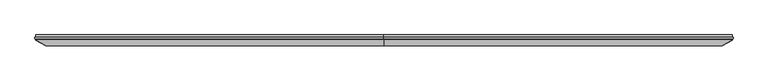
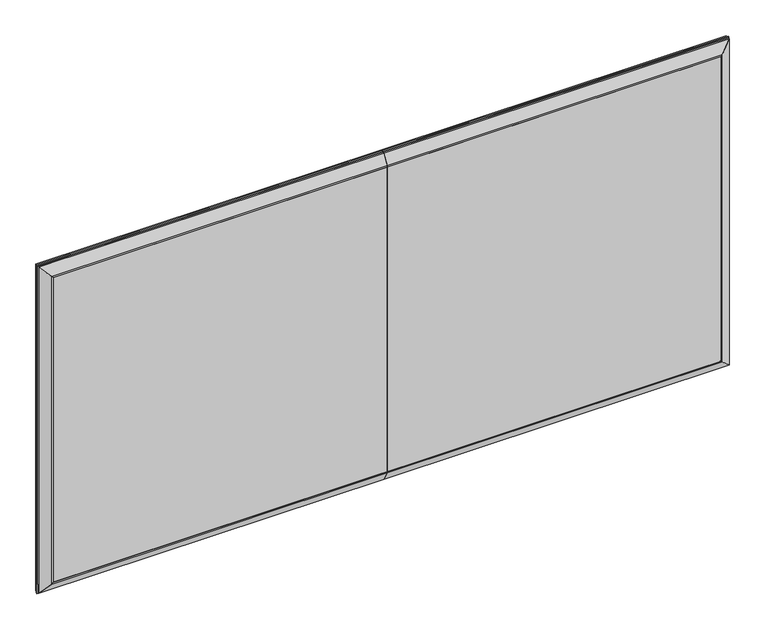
"""IFC4 building model written with IfcOpenShell, lengths in millimetres: proxy geometry, IMPRESS^TABLE 3_2pc 60x120-TOP PARTS SOLID."""

from ifc_helpers import new_model, si_unit, frame, origin, place, context, project, spatial, polyline, outline, extrude, faceted_brep, source, transform, mapped, element, save


def generic_models_7fb8ee6f(model_context):
    return source(origin(), model_context, "Body", "SolidModel", [
        extrude(outline(polyline([(3006.725, 0.0), (3051.175, 0.0), (3051.175, -6.35), (3006.725, -6.35), (3006.725, 0.0)])), frame((0.0, 0.0, -1508.125), z_axis=(0.0, 0.0, 1.0), x_axis=(1.0, 0.0, 0.0)), (0.0, 0.0, 1.0), 1492.25),
        extrude(outline(polyline([(1524.0, 0.0), (1524.0, 9.525), (3048.0, 9.525), (3048.0, 0.0), (1524.0, 0.0)])), frame((0.0, 0.0, -1524.0), z_axis=(0.0, 0.0, 1.0), x_axis=(1.0, 0.0, 0.0)), (0.0, 0.0, 1.0), 1524.0),
        extrude(outline(polyline([(3051.175, 0.0), (3051.175, -6.35), (1524.0, -6.35), (1524.0, 0.0), (3051.175, 0.0)])), frame((0.0, 0.0, -41.275), z_axis=(0.0, 0.0, 1.0), x_axis=(1.0, 0.0, 0.0)), (0.0, 0.0, 1.0), 44.45),
        extrude(outline(polyline([(2997.2, -38.1), (1524.0, -38.1), (1524.0, 0.0), (2997.2, 0.0), (2997.2, -38.1)])), frame((0.0, 0.0, -1473.2), z_axis=(0.0, 0.0, 1.0), x_axis=(1.0, 0.0, 0.0)), (0.0, 0.0, 1.0), 1422.4),
        faceted_brep([(43.9940905, -38.1, -1480.0059095), (1524.0, -38.1, -1480.0059095), (1524.0, -38.1, -1473.2), (50.8, -38.1, -1473.2), (0.0, -12.7, -1524.0), (1524.0, -12.7, -1524.0), (0.0, 0.0, -1524.0), (1524.0, 0.0, -1524.0), (50.8, 0.0, -1473.2), (1524.0, 0.0, -1473.2)], [[[0, 1, 2, 3]], [[4, 5, 1, 0]], [[6, 7, 5, 4]], [[7, 6, 8, 9]], [[3, 2, 9, 8]], [[7, 9, 2, 1, 5]], [[6, 4, 0, 3, 8]]]),
        extrude(outline(polyline([(1524.0, -6.35), (1524.0, 0.0), (3051.175, 0.0), (3051.175, -6.35), (1524.0, -6.35)])), frame((0.0, 0.0, -1527.175), z_axis=(0.0, 0.0, 1.0), x_axis=(1.0, 0.0, 0.0)), (0.0, 0.0, 1.0), 44.45),
        extrude(outline(polyline([(1524.0, 0.0), (1524.0, -6.35), (-3.175, -6.35), (-3.175, 0.0), (1524.0, 0.0)])), frame((0.0, 0.0, -1527.175), z_axis=(0.0, 0.0, 1.0), x_axis=(1.0, 0.0, 0.0)), (0.0, 0.0, 1.0), 44.45),
        faceted_brep([(3004.0059095, -38.1, -1480.0059095), (3004.0059095, -38.1, -43.9940905), (2997.2, -38.1, -50.8), (2997.2, -38.1, -1473.2), (3048.0, 0.0, -1524.0), (3048.0, 0.0, 0.0), (3048.0, -12.7, 0.0), (3048.0, -12.7, -1524.0), (2997.2, 0.0, -50.8), (2997.2, 0.0, -1473.2)], [[[0, 1, 2, 3]], [[4, 5, 6, 7]], [[6, 5, 8, 2, 1]], [[5, 4, 9, 8]], [[3, 2, 8, 9]], [[7, 6, 1, 0]], [[4, 7, 0, 3, 9]]]),
        faceted_brep([(43.9940905, -38.1, -43.9940905), (43.9940905, -38.1, -1480.0059095), (50.8, -38.1, -1473.2), (50.8, -38.1, -50.8), (0.0, 0.0, 0.0), (0.0, 0.0, -1524.0), (0.0, -12.7, -1524.0), (0.0, -12.7, 0.0), (50.8, 0.0, -1473.2), (50.8, 0.0, -50.8)], [[[0, 1, 2, 3]], [[4, 5, 6, 7]], [[6, 5, 8, 2, 1]], [[5, 4, 9, 8]], [[3, 2, 8, 9]], [[7, 6, 1, 0]], [[4, 7, 0, 3, 9]]]),
        extrude(outline(polyline([(-3.175, 0.0), (41.275, 0.0), (41.275, -6.35), (-3.175, -6.35), (-3.175, 0.0)])), frame((0.0, 0.0, -1508.125), z_axis=(0.0, 0.0, 1.0), x_axis=(1.0, 0.0, 0.0)), (0.0, 0.0, 1.0), 1492.25),
        extrude(outline(polyline([(1524.0, 0.0), (1524.0, -6.35), (-3.175, -6.35), (-3.175, 0.0), (1524.0, 0.0)])), frame((0.0, 0.0, -41.275), z_axis=(0.0, 0.0, 1.0), x_axis=(1.0, 0.0, 0.0)), (0.0, 0.0, 1.0), 44.45),
        faceted_brep([(1524.0, -38.1, -1480.0059095), (3004.0059095, -38.1, -1480.0059095), (2997.2, -38.1, -1473.2), (1524.0, -38.1, -1473.2), (3048.0, 0.0, -1524.0), (1524.0, 0.0, -1524.0), (1524.0, 0.0, -1473.2), (2997.2, 0.0, -1473.2), (3048.0, -12.7, -1524.0), (1524.0, -12.7, -1524.0)], [[[0, 1, 2, 3]], [[4, 5, 6, 7]], [[5, 4, 8, 9]], [[8, 4, 7, 2, 1]], [[3, 2, 7, 6]], [[9, 8, 1, 0]], [[5, 9, 0, 3, 6]]]),
        faceted_brep([(1524.0, -38.1, -50.8), (50.8, -38.1, -50.8), (50.8, 0.0, -50.8), (1524.0, 0.0, -50.8), (1524.0, -38.1, -43.9940905), (43.9940905, -38.1, -43.9940905), (0.0, 0.0, 0.0), (1524.0, 0.0, 0.0), (0.0, -12.7, 0.0), (1524.0, -12.7, 0.0)], [[[0, 1, 2, 3]], [[1, 0, 4, 5]], [[6, 7, 3, 2]], [[7, 6, 8, 9]], [[8, 6, 2, 1, 5]], [[0, 3, 7, 9, 4]], [[9, 8, 5, 4]]]),
        extrude(outline(polyline([(1524.0, -38.1), (50.8, -38.1), (50.8, 0.0), (1524.0, 0.0), (1524.0, -38.1)])), frame((0.0, 0.0, -1473.2), z_axis=(0.0, 0.0, 1.0), x_axis=(1.0, 0.0, 0.0)), (0.0, 0.0, 1.0), 1422.4),
        extrude(outline(polyline([(1524.0, 9.525), (1524.0, 0.0), (0.0, 0.0), (0.0, 9.525), (1524.0, 9.525)])), frame((0.0, 0.0, -1524.0), z_axis=(0.0, 0.0, 1.0), x_axis=(1.0, 0.0, 0.0)), (0.0, 0.0, 1.0), 1524.0),
        faceted_brep([(2997.2, -38.1, -50.8), (1524.0, -38.1, -50.8), (1524.0, 0.0, -50.8), (2997.2, 0.0, -50.8), (3004.0059095, -38.1, -43.9940905), (1524.0, -38.1, -43.9940905), (3048.0, 0.0, 0.0), (1524.0, 0.0, 0.0), (1524.0, -12.7, 0.0), (3048.0, -12.7, 0.0)], [[[0, 1, 2, 3]], [[1, 0, 4, 5]], [[6, 7, 8, 9]], [[7, 6, 3, 2]], [[8, 7, 2, 1, 5]], [[9, 8, 5, 4]], [[6, 9, 4, 0, 3]]]),
    ])


if __name__ == "__main__":
    model = new_model("IFC4")
    model_context = context("Model", 3, world=origin())
    ifc_project = project(units=[si_unit("LENGTHUNIT", "METRE", prefix="MILLI")], contexts=[model_context])
    site = spatial("IfcSite", under=ifc_project)
    building = spatial("IfcBuilding", under=site)
    placement = place(None, origin())
    generic_models_shape = generic_models_7fb8ee6f(model_context)
    element("IfcBuildingElementProxy", 1, Name="IMPRESS^TABLE 3_2pc 60x120-TOP PARTS SOLID", ObjectType="IMPRESS^TABLE 3_2pc 60x120-TOP PARTS SOLID", at=placement, inside=building, context=model_context, shape_type="MappedRepresentation", body=[
        mapped(generic_models_shape, transform((0.0, 0.0, 0.0), x_axis=(1.0, 0.0, 0.0), y_axis=(0.0, 1.0, 0.0), z_axis=(0.0, 0.0, 1.0))),
    ])
    save(model, "model.ifc")
